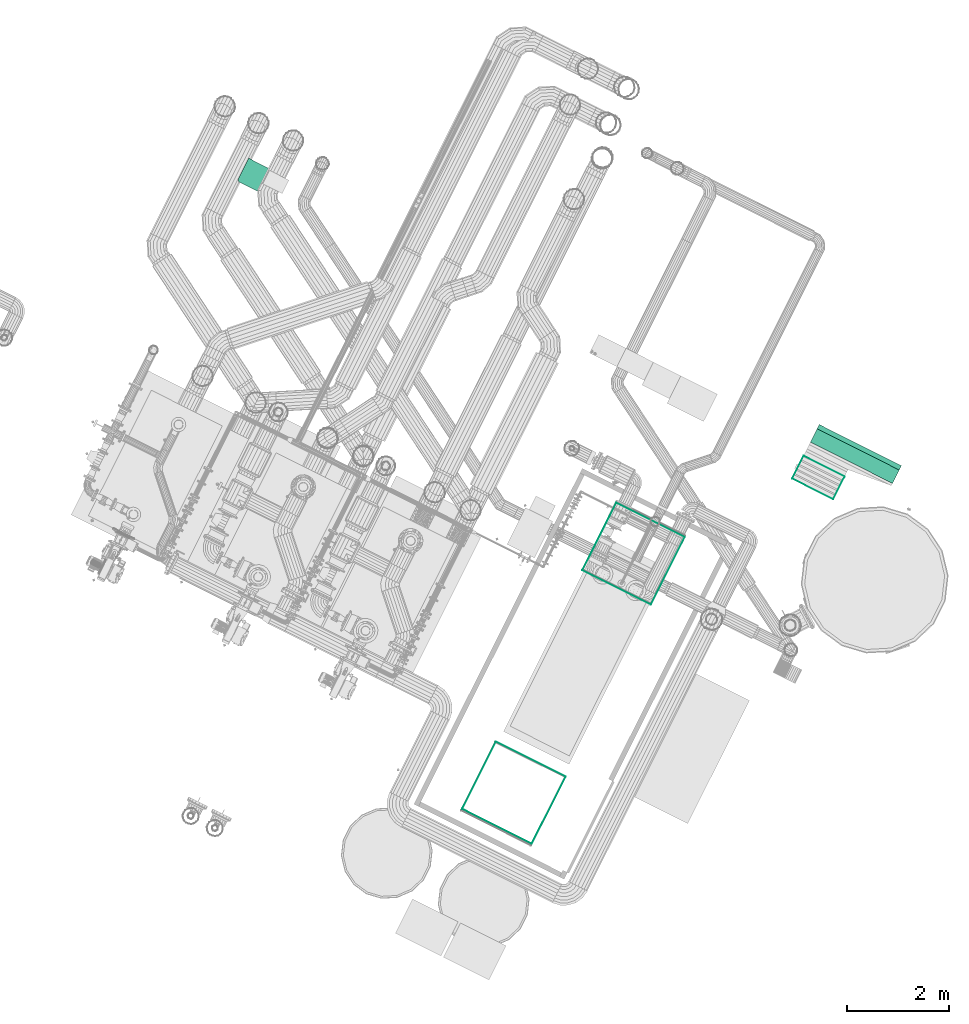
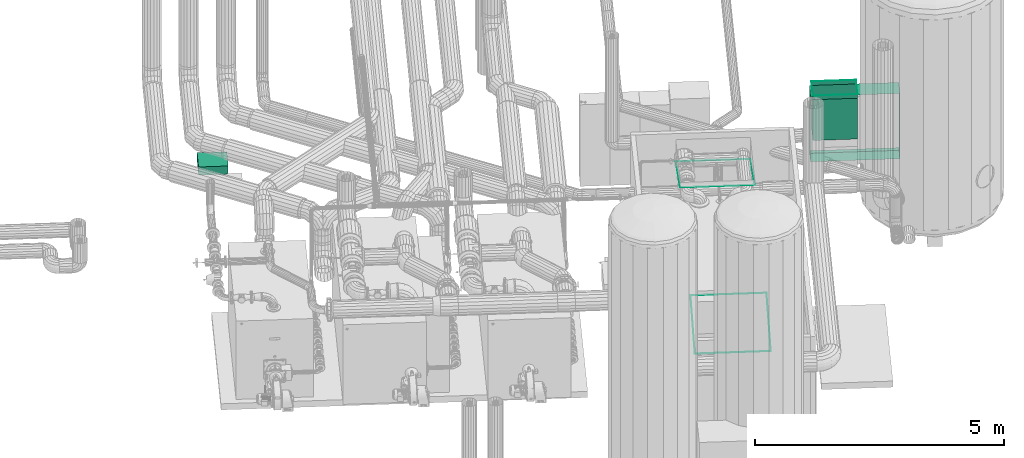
# One storey, part 3 of 206: 5 flow terminals, 2 flow segments, 1 flow treatment device.
"""IFC2X3 building model written with IfcOpenShell, lengths in metres."""

from ifc_helpers import new_model, si_unit, derived_unit, direction, frame, origin, place, context, subcontext, project, spatial, polyline, outline, extrude, face_set, surface_model, source, transform, mapped, material, type_object, type_shapes, element, save


model = new_model("IFC2X3")

# Units and contexts
model_context = context("Model", 3, precision=5.2338327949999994e-05, world=origin(), true_north=direction((0.0, 1.0)))
body_context = subcontext(model_context, "Body", "Model", "MODEL_VIEW")
ifc_project = project(units=[si_unit("LENGTHUNIT", "METRE"), si_unit("AREAUNIT", "SQUARE_METRE"), si_unit("VOLUMEUNIT", "CUBIC_METRE"), si_unit("MASSUNIT", "GRAM", prefix="KILO"), si_unit("PLANEANGLEUNIT", "RADIAN"), derived_unit("THERMALTRANSMITTANCEUNIT", [(si_unit("MASSUNIT", "GRAM", prefix="KILO"), 1), (si_unit("THERMODYNAMICTEMPERATUREUNIT", "KELVIN"), -1), (si_unit("TIMEUNIT", "SECOND"), -3)])], contexts=[model_context])

# Site, building, storey
site_placement = place(None, frame((0.0, 0.0, 0.0), z_axis=(0.0, 0.0, 1.0), x_axis=(0.8939966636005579, -0.4480736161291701, 0.0)))
site = spatial("IfcSite", under=ifc_project, at=site_placement, Name="Default", CompositionType="ELEMENT")
building_placement = place(site_placement, origin())
building = spatial("IfcBuilding", under=site, at=building_placement, CompositionType="ELEMENT")
storey_placement = place(building_placement, origin())
storey = spatial("IfcBuildingStorey", under=building, at=storey_placement, Name="Erdgeschoss", CompositionType="ELEMENT", Elevation=0.0)

# Flow terminals
ifc_material_1 = material(Name="IfcSurfaceStyle #270045")
distribution_element_type_1 = type_object("IfcDistributionElementType", Name="Ausgussbecken:Ausgussbecken", material=ifc_material_1)
shared_shape_1 = source(origin(), body_context, "Body", "SweptSolid", [
    extrude(outline(polyline([(-0.3912361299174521, -0.2749999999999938), (0.00876387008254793, -0.2749999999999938), (0.011377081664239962, -0.27486304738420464), (0.013961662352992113, -0.274453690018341), (0.01648929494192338, -0.2737764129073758), (0.018932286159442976, -0.27283863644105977), (0.02126387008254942, -0.27165063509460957), (0.023458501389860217, -0.27022542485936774), (0.02549213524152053, -0.26857862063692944), (0.02734249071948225, -0.2667282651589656), (0.028989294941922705, -0.2646946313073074), (0.030414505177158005, -0.2624999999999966), (0.031602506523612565, -0.26016841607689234), (0.03254028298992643, -0.2577254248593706), (0.03321756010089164, -0.2551977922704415), (0.03362691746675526, -0.2526132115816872), (0.03376387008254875, -0.24999999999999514), (0.03376387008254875, 0.25000000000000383), (0.03362691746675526, 0.25261321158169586), (0.03321756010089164, 0.2551977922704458), (0.03254028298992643, 0.25772542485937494), (0.031602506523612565, 0.26016841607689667), (0.030414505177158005, 0.26250000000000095), (0.028989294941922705, 0.2646946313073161), (0.02734249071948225, 0.26672826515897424), (0.02549213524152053, 0.2685786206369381), (0.023458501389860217, 0.2702254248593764), (0.02126387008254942, 0.27165063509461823), (0.018932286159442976, 0.2728386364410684), (0.01648929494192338, 0.27377641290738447), (0.013961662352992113, 0.2744536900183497), (0.011377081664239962, 0.2748630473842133), (0.00876387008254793, 0.27500000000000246), (-0.3912361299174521, 0.27500000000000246), (-0.3912361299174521, -0.2749999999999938)])), frame((20.63188990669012, 12.208763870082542, 0.8490000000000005), z_axis=(0.0, 0.0, 1.0), x_axis=(0.0, -1.0, 0.0)), (0.0, 0.0, 1.0), 0.0010000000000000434),
    extrude(outline(polyline([(-0.45306049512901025, -0.3000000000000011), (-0.003060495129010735, -0.3000000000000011), (0.002165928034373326, -0.29972609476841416), (0.00733508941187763, -0.29890738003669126), (0.01239035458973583, -0.29755282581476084), (0.017276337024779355, -0.2956772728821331), (0.021939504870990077, -0.293301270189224), (0.026328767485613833, -0.290450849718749), (0.030396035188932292, -0.28715724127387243), (0.03409674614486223, -0.2834565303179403), (0.03739035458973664, -0.27938926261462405), (0.04024077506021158, -0.27499999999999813), (0.04261677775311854, -0.2703368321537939), (0.04449233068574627, -0.26545084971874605), (0.04584688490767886, -0.26039558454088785), (0.04666559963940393, -0.25522642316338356), (0.046939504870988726, -0.24999999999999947), (0.046939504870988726, 0.24999999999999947), (0.04666559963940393, 0.25522642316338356), (0.04584688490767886, 0.26039558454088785), (0.04449233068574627, 0.26545084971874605), (0.04261677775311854, 0.27033683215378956), (0.04024077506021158, 0.27499999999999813), (0.03739035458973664, 0.27938926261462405), (0.034096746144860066, 0.2834565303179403), (0.030396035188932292, 0.2871572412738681), (0.026328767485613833, 0.290450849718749), (0.021939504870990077, 0.29330127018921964), (0.017276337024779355, 0.29567727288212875), (0.01239035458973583, 0.29755282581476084), (0.00733508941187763, 0.29890738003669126), (0.002165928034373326, 0.29972609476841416), (-0.003060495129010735, 0.3000000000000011), (-0.45306049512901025, 0.3000000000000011), (-0.45306049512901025, -0.3000000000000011)])), frame((20.631889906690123, 12.196939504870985, 0.6499999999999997), z_axis=(0.0, 0.0, 1.0), x_axis=(0.0, -1.0, 0.0)), (0.0, 0.0, 1.0), 0.2),
])
type_shapes(distribution_element_type_1, [shared_shape_1])
flow_terminal_1_placement = place(storey_placement, origin())
element("IfcFlowTerminal", 1, at=flow_terminal_1_placement, inside=storey, type_object=distribution_element_type_1, material=ifc_material_1, Name="Ausgussbecken", ObjectType="Ausgussbecken", context=body_context, shape_type="MappedRepresentation", body=[
    mapped(shared_shape_1, transform((0.0, 0.0, 0.0), scale=1.0)),
])
ifc_material_2 = material(Name="IfcSurfaceStyle #271082")
distribution_element_type_2 = type_object("IfcDistributionElementType", Name="Wetterschutzgitter 851361:Wetterschutzgitter 851361", material=ifc_material_2)
shared_shape_2 = source(origin(), body_context, "Body", "SurfaceModel", [
    surface_model("IfcFaceBasedSurfaceModel", [(32.670500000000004, 12.89999999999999, 0.1504999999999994), (32.670500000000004, 12.994999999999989, 0.1504999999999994), (34.4695, 12.994999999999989, 0.1504999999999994), (34.4695, 12.899999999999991, 0.1504999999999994), (34.4695, 12.994999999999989, 1.7495), (34.4695, 12.899999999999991, 1.7495), (32.670500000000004, 12.994999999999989, 1.7495), (32.670500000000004, 12.899999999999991, 1.7495)], [face_set([[[0, 1, 2, 3]], [[3, 2, 4, 5]], [[5, 4, 6, 7]], [[7, 6, 1, 0]]])]),
])
type_shapes(distribution_element_type_2, [shared_shape_2])
flow_terminal_2_placement = place(storey_placement, origin())
element("IfcFlowTerminal", 2, at=flow_terminal_2_placement, inside=storey, type_object=distribution_element_type_2, material=ifc_material_2, Name="Wetterschutzgitter", ObjectType="Wetterschutzgitter", context=body_context, shape_type="MappedRepresentation", body=[
    mapped(shared_shape_2, transform((0.0, 0.0, 0.0), scale=1.0)),
])

# Flow segment
ifc_material_3 = material(Name="IfcSurfaceStyle #271263")
distribution_element_type_3 = type_object("IfcDistributionElementType", Name="Luftleitungsteil 851455:Luftleitungsteil 851455", material=ifc_material_3)
shared_shape_3 = source(origin(), body_context, "Body", "SurfaceModel", [
    surface_model("IfcFaceBasedSurfaceModel", [(32.67, 12.994999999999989, 1.7499999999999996), (32.67, 12.606074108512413, 1.7499999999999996), (34.47, 12.606074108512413, 1.7499999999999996), (34.47, 12.994999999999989, 1.7499999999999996), (34.47, 12.606074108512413, 0.14999999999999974), (34.47, 12.994999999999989, 0.14999999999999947), (32.67, 12.606074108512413, 0.1499999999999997), (32.67, 12.994999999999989, 0.14999999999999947)], [face_set([[[0, 1, 2, 3]], [[3, 2, 4, 5]], [[5, 4, 6, 7]], [[7, 6, 1, 0]]])]),
])
type_shapes(distribution_element_type_3, [shared_shape_3])
flow_segment_1_placement = place(storey_placement, origin())
element("IfcFlowSegment", 3, at=flow_segment_1_placement, inside=storey, type_object=distribution_element_type_3, material=ifc_material_3, Name="Luftleitungsteil", ObjectType="Luftleitungsteil", context=body_context, shape_type="MappedRepresentation", body=[
    mapped(shared_shape_3, transform((0.0, 0.0, 0.0), scale=1.0)),
])

# Flow treatment device
distribution_element_type_4 = type_object("IfcDistributionElementType", Name="Schalldämpfer 852105:Schalldämpfer 852105", material=ifc_material_2)
shared_shape_4 = source(origin(), body_context, "Body", "SurfaceModel", [
    surface_model("IfcFaceBasedSurfaceModel", [(33.56999999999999, 11.806074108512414, 2.229999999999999), (33.56999999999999, 11.806074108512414, 1.2299999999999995), (33.56999999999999, 12.306074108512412, 1.2299999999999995), (33.56999999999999, 12.306074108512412, 2.229999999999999), (32.67, 12.306074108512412, 1.2299999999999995), (32.67, 12.306074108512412, 2.229999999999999), (32.67, 11.806074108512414, 1.2299999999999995), (32.67, 11.806074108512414, 2.229999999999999)], [face_set([[[0, 1, 2, 3]], [[3, 2, 4, 5]], [[5, 4, 6, 7]], [[7, 6, 1, 0]]])]),
])
type_shapes(distribution_element_type_4, [shared_shape_4])
flow_treatment_device_placement = place(storey_placement, origin())
element("IfcFlowTreatmentDevice", 4, at=flow_treatment_device_placement, inside=storey, type_object=distribution_element_type_4, material=ifc_material_2, Name="Schalldämpfer", ObjectType="Schalldämpfer", context=body_context, shape_type="MappedRepresentation", body=[
    mapped(shared_shape_4, transform((0.0, 0.0, 0.0), scale=1.0)),
])

# Flow terminal
distribution_element_type_5 = type_object("IfcDistributionElementType", Name="Bodengitter:Bodengitter", material=ifc_material_2)
shared_shape_5 = source(origin(), body_context, "Body", "SurfaceModel", [
    surface_model("IfcFaceBasedSurfaceModel", [(32.670500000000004, 11.806574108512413, 2.3289999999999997), (32.670500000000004, 11.806574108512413, 2.3299999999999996), (32.670500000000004, 12.305574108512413, 2.3299999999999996), (32.670500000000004, 12.305574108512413, 2.3289999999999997), (33.5695, 12.305574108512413, 2.3299999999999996), (33.5695, 12.305574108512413, 2.3289999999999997), (33.5695, 11.806574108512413, 2.3299999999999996), (33.5695, 11.806574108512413, 2.3289999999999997)], [face_set([[[0, 1, 2, 3]], [[3, 2, 4, 5]], [[5, 4, 6, 7]], [[7, 6, 1, 0]]])]),
])
type_shapes(distribution_element_type_5, [shared_shape_5])
flow_terminal_3_placement = place(storey_placement, origin())
element("IfcFlowTerminal", 5, at=flow_terminal_3_placement, inside=storey, type_object=distribution_element_type_5, material=ifc_material_2, Name="Bodengitter", ObjectType="Bodengitter", context=body_context, shape_type="MappedRepresentation", body=[
    mapped(shared_shape_5, transform((0.0, 0.0, 0.0), scale=1.0)),
])

# Flow segment
distribution_element_type_6 = type_object("IfcDistributionElementType", Name="Luftleitungsteil 852232:Luftleitungsteil 852232", material=ifc_material_2)
shared_shape_6 = source(origin(), body_context, "Body", "SurfaceModel", [
    surface_model("IfcFaceBasedSurfaceModel", [(32.67, 11.806074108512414, 2.229999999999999), (32.67, 11.806074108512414, 2.3299999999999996), (32.67, 12.306074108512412, 2.3300000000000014), (32.67, 12.306074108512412, 2.229999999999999), (33.57, 12.306074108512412, 2.3299999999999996), (33.57, 12.306074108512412, 2.229999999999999), (33.56999999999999, 11.806074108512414, 2.3299999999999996), (33.56999999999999, 11.806074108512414, 2.229999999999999)], [face_set([[[0, 1, 2, 3]], [[3, 2, 4, 5]], [[5, 4, 6, 7]], [[7, 6, 1, 0]]])]),
])
type_shapes(distribution_element_type_6, [shared_shape_6])
flow_segment_2_placement = place(storey_placement, origin())
element("IfcFlowSegment", 6, at=flow_segment_2_placement, inside=storey, type_object=distribution_element_type_6, material=ifc_material_2, Name="Luftleitungsteil", ObjectType="Luftleitungsteil", context=body_context, shape_type="MappedRepresentation", body=[
    mapped(shared_shape_6, transform((0.0, 0.0, 0.0), scale=1.0)),
])

# Flow terminals
distribution_element_type_7 = type_object("IfcDistributionElementType", Name="Bodengitter 852295:Bodengitter 852295", material=ifc_material_2)
shared_shape_7 = source(origin(), body_context, "Body", "SurfaceModel", [
    surface_model("IfcFaceBasedSurfaceModel", [(31.314500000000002, 4.5957724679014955, 2.591381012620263), (31.314500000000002, 4.596031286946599, 2.590415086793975), (29.7855, 4.596031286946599, 2.590415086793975), (29.7855, 4.5957724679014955, 2.591381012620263), (29.7855, 3.1191306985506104, 2.1946807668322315), (29.7855, 3.118871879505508, 2.1956466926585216), (31.314500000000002, 3.1191306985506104, 2.1946807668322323), (31.314500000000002, 3.118871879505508, 2.1956466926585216)], [face_set([[[0, 1, 2, 3]], [[3, 2, 4, 5]], [[5, 4, 6, 7]], [[7, 6, 1, 0]]])]),
])
type_shapes(distribution_element_type_7, [shared_shape_7])
flow_terminal_4_placement = place(storey_placement, origin())
element("IfcFlowTerminal", 7, at=flow_terminal_4_placement, inside=storey, type_object=distribution_element_type_7, material=ifc_material_2, Name="Bodengitter", ObjectType="Bodengitter", context=body_context, shape_type="MappedRepresentation", body=[
    mapped(shared_shape_7, transform((0.0, 0.0, 0.0), scale=1.0)),
])
distribution_element_type_8 = type_object("IfcDistributionElementType", Name="Bodengitter 852407:Bodengitter 852407", material=ifc_material_2)
shared_shape_8 = source(origin(), body_context, "Body", "SurfaceModel", [
    surface_model("IfcFaceBasedSurfaceModel", [(31.29950000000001, 8.359966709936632, 2.6072822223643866), (31.29950000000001, 8.359707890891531, 2.606316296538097), (31.299500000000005, 9.83660847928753, 2.2105819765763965), (31.299500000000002, 9.836867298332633, 2.2115479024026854), (29.800500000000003, 9.83660847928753, 2.2105819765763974), (29.800500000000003, 9.836867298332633, 2.2115479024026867), (29.800500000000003, 8.359707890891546, 2.6063162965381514), (29.800500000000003, 8.359966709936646, 2.60728222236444)], [face_set([[[0, 1, 2, 3]], [[3, 2, 4, 5]], [[5, 4, 6, 7]], [[7, 6, 1, 0]]])]),
])
type_shapes(distribution_element_type_8, [shared_shape_8])
flow_terminal_5_placement = place(storey_placement, origin())
element("IfcFlowTerminal", 8, at=flow_terminal_5_placement, inside=storey, type_object=distribution_element_type_8, material=ifc_material_2, Name="Bodengitter", ObjectType="Bodengitter", context=body_context, shape_type="MappedRepresentation", body=[
    mapped(shared_shape_8, transform((0.0, 0.0, 0.0), scale=1.0)),
])

save(model, "model.ifc")
